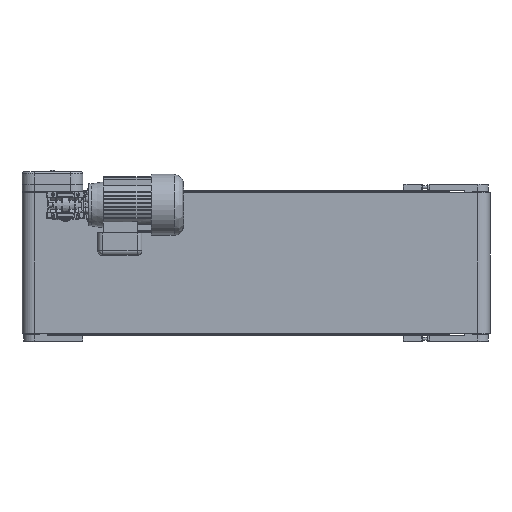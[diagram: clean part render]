
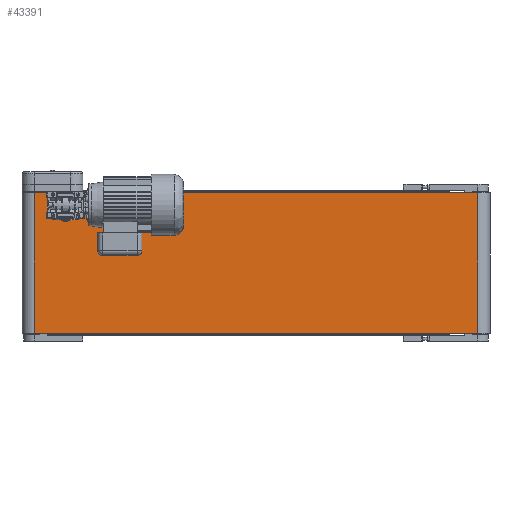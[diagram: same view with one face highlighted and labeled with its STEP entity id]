
A CAD part, top view. The second image highlights one B-rep face of the part: STEP entity #43391.
In plain terms, the highlighted planar face has unit normal (0, 0, 1).
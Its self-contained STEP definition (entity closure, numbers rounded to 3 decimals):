
#2102 = ORIENTED_EDGE ( 'NONE', *, *, #70494, .F. ) ;
#2161 = CARTESIAN_POINT ( 'NONE',  ( 974., 300., 26. ) ) ;
#2257 = VECTOR ( 'NONE', #5884, 1000. ) ;
#3813 = CARTESIAN_POINT ( 'NONE',  ( 26., 0., 26. ) ) ;
#5884 = DIRECTION ( 'NONE',  ( 0., -1., 0. ) ) ;
#9754 = LINE ( 'NONE', #53202, #27472 ) ;
#14193 = DIRECTION ( 'NONE',  ( 0., -1., 0. ) ) ;
#14358 = CARTESIAN_POINT ( 'NONE',  ( 974., 0., 26. ) ) ;
#14376 = CARTESIAN_POINT ( 'NONE',  ( 26., 0., 26. ) ) ;
#15193 = ORIENTED_EDGE ( 'NONE', *, *, #40935, .F. ) ;
#15526 = AXIS2_PLACEMENT_3D ( 'NONE', #47411, #70195, #36733 ) ;
#19906 = LINE ( 'NONE', #14376, #36635 ) ;
#25758 = DIRECTION ( 'NONE',  ( 1., 0., 0. ) ) ;
#27472 = VECTOR ( 'NONE', #14193, 1000. ) ;
#27584 = ORIENTED_EDGE ( 'NONE', *, *, #43049, .T. ) ;
#33635 = VECTOR ( 'NONE', #53289, 1000. ) ;
#36635 = VECTOR ( 'NONE', #25758, 1000. ) ;
#36733 = DIRECTION ( 'NONE',  ( -1., 0., 0. ) ) ;
#40139 = LINE ( 'NONE', #50459, #2257 ) ;
#40935 = EDGE_CURVE ( 'NONE', #67099, #54452, #40139, .T. ) ;
#43049 = EDGE_CURVE ( 'NONE', #62391, #54452, #19906, .T. ) ;
#43334 = CARTESIAN_POINT ( 'NONE',  ( 26., 300., 26. ) ) ;
#43391 = ADVANCED_FACE ( 'NONE', ( #59154 ), #47781, .F. ) ;
#44356 = LINE ( 'NONE', #49124, #33635 ) ;
#47411 = CARTESIAN_POINT ( 'NONE',  ( 26., 300., 26. ) ) ;
#47781 = PLANE ( 'NONE',  #15526 ) ;
#49124 = CARTESIAN_POINT ( 'NONE',  ( 26., 300., 26. ) ) ;
#50459 = CARTESIAN_POINT ( 'NONE',  ( 974., 300., 26. ) ) ;
#51268 = EDGE_CURVE ( 'NONE', #64829, #62391, #9754, .T. ) ;
#53202 = CARTESIAN_POINT ( 'NONE',  ( 26., 300., 26. ) ) ;
#53289 = DIRECTION ( 'NONE',  ( 1., 0., 0. ) ) ;
#54452 = VERTEX_POINT ( 'NONE', #14358 ) ;
#59154 = FACE_OUTER_BOUND ( 'NONE', #68703, .T. ) ;
#62391 = VERTEX_POINT ( 'NONE', #3813 ) ;
#64829 = VERTEX_POINT ( 'NONE', #43334 ) ;
#65354 = ORIENTED_EDGE ( 'NONE', *, *, #51268, .T. ) ;
#67099 = VERTEX_POINT ( 'NONE', #2161 ) ;
#68703 = EDGE_LOOP ( 'NONE', ( #27584, #15193, #2102, #65354 ) ) ;
#70195 = DIRECTION ( 'NONE',  ( 0., 0., -1. ) ) ;
#70494 = EDGE_CURVE ( 'NONE', #64829, #67099, #44356, .T. ) ;
